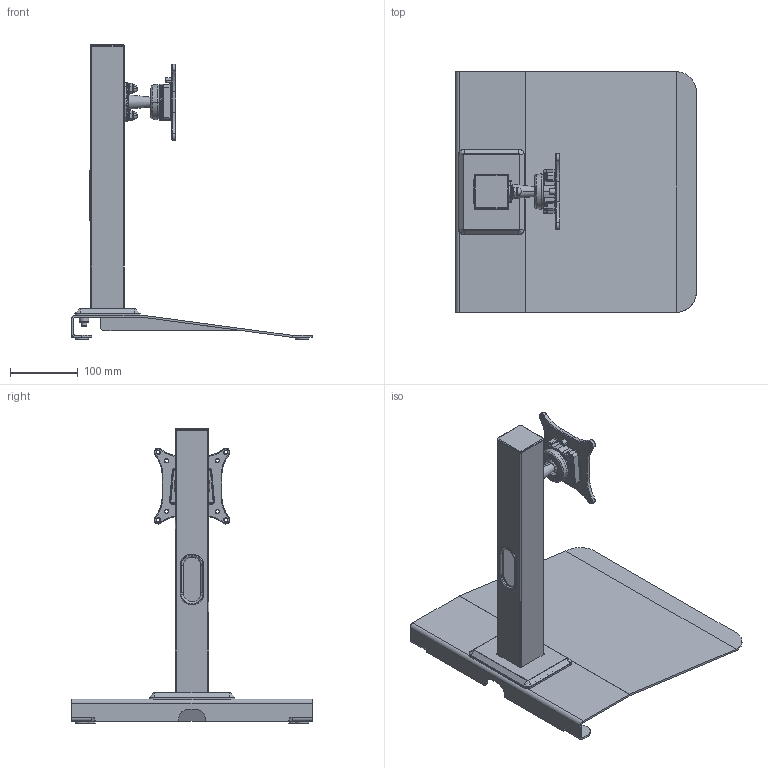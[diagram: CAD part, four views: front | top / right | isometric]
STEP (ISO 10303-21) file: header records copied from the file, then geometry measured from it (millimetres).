
FILE_DESCRIPTION(/* description */ (''),/* implementation_level */ '2;1');
FILE_NAME(/* name */ 'BL101',/* time_stamp */ '2018-05-18T15:29:06+08:00',/* author */ (''),/* organization */ (''),/* preprocessor_version */ 'ST-DEVELOPER v15',/* originating_system */ '',/* authorisation */ '');
FILE_SCHEMA (('CONFIG_CONTROL_DESIGN'));
Length unit declared in the file: millimetre
Products named in the file (15): Document; PRT0048_1_3 01; PRT0049_1_2 01; PRT0050_1_2 01; PRT0051_1_1 01; k100-waifa-2_id214_x_t; k100-waifa-2_id138_x_t; k100-waifa-2_id34_x_t; k100-waifa-2_id10_x_t; A-PA-13_1; BL-50_ASM_1_ASM; FANGBAN_1_2_1_1_4; M8YAMAOLUOMU_2; BL-FE-03_3; BL-FE-04_2 01
Assembly tree (23 placements, depth 3):
  Document
    PRT0048_1_3 01
    PRT0049_1_2 01  x2
    PRT0050_1_2 01  x2
    PRT0051_1_1 01  x2
    k100-waifa-2_id214_x_t
    k100-waifa-2_id138_x_t
    k100-waifa-2_id34_x_t
    k100-waifa-2_id10_x_t
    A-PA-13_1  x4
    BL-50_ASM_1_ASM
      FANGBAN_1_2_1_1_4
      M8YAMAOLUOMU_2  x4
    BL-FE-03_3
    BL-FE-04_2 01
Bounding box: 356 x 356 x 435 mm (x, y, z)
Volume: 851521.5 mm3; surface area: 555590 mm2
Topology: 30 solids, 33 shells, 1267 faces, 3358 edges, 2153 vertices
Faces by surface type: bspline 903, plane 364
Entity records: 69371 total; most frequent: CARTESIAN_POINT 50582, ORIENTED_EDGE 5881, EDGE_CURVE 2954, B_SPLINE_CURVE_WITH_KNOTS 1898, VERTEX_POINT 1894, EDGE_LOOP 1215, ADVANCED_FACE 1116, FACE_OUTER_BOUND 1116
